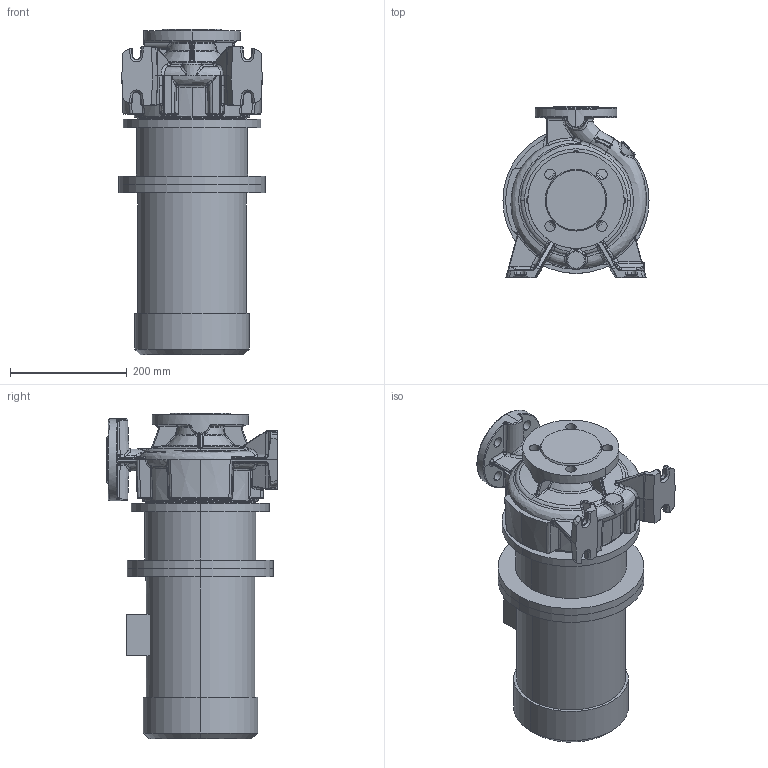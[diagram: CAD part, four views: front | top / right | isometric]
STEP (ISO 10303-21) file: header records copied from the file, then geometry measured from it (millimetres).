
FILE_DESCRIPTION (( 'STEP AP214' ), '1' );
FILE_NAME ('KRM 50-32-160.1-2-3.STEP', '2026-04-23T07:16:49', ( '' ), ( '' ), 'SwSTEP 2.0', 'SolidWorks 2016', '' );
FILE_SCHEMA (( 'AUTOMOTIVE_DESIGN' ));
Length unit declared in the file: millimetre
Products named in the file (1): KRM 50-32-160.1-2-3
Bounding box: 250 x 292.5 x 557.3 mm (x, y, z)
Volume: 17438527.5 mm3; surface area: 879760.9 mm2
Topology: 4 solids, 4 shells, 1060 faces, 2496 edges, 1431 vertices
Faces by surface type: bspline 527, cylinder 228, plane 151, torus 68, cone 50, sphere 36
Entity records: 103964 total; most frequent: CARTESIAN_POINT 72275, ORIENTED_EDGE 4926, DIRECTION 3236, EDGE_CURVE 2463, VERTEX_POINT 1431, AXIS2_PLACEMENT_3D 1395, EDGE_LOOP 1096, UNCERTAINTY_MEASURE_WITH_UNIT 1066
